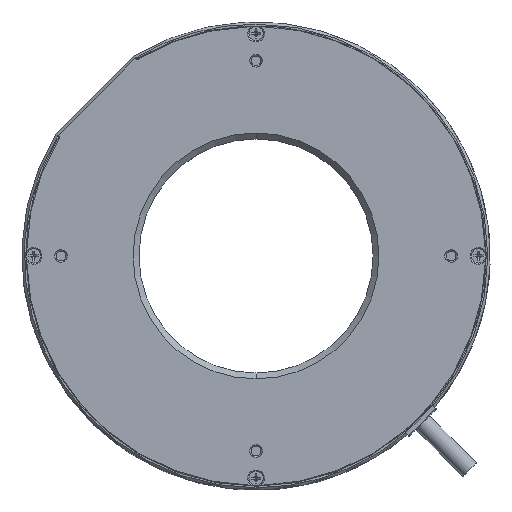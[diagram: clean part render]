
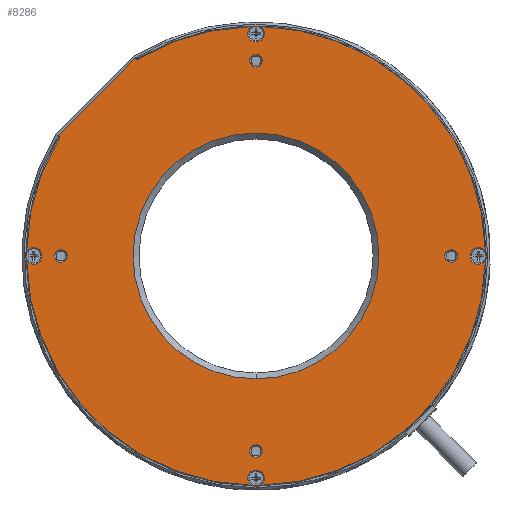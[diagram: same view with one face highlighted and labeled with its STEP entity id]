
A CAD part, top view. The second image highlights one B-rep face of the part: STEP entity #8286.
In plain terms, the highlighted planar face has unit normal (0, 0, 1).
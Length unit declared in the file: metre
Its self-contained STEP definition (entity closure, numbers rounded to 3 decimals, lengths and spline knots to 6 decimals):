
#1391=CARTESIAN_POINT('',(0.,0.,0.004));
#1392=DIRECTION('',(0.,0.,-1.));
#1393=DIRECTION('',(0.,1.,0.));
#1394=AXIS2_PLACEMENT_3D('',#1391,#1392,#1393);
#1396=CARTESIAN_POINT('',(0.,0.,0.004));
#1397=DIRECTION('',(0.,0.,-1.));
#1398=DIRECTION('',(0.,-1.,0.));
#1399=AXIS2_PLACEMENT_3D('',#1396,#1397,#1398);
#1401=CARTESIAN_POINT('',(0.,-0.05,0.004));
#1402=DIRECTION('',(0.,0.,-1.));
#1403=DIRECTION('',(0.,-1.,0.));
#1404=AXIS2_PLACEMENT_3D('',#1401,#1402,#1403);
#1406=CARTESIAN_POINT('',(0.,-0.05,0.004));
#1407=DIRECTION('',(0.,0.,-1.));
#1408=DIRECTION('',(0.,1.,0.));
#1409=AXIS2_PLACEMENT_3D('',#1406,#1407,#1408);
#1411=CARTESIAN_POINT('',(0.05,0.,0.004));
#1412=DIRECTION('',(0.,0.,-1.));
#1413=DIRECTION('',(1.,0.,0.));
#1414=AXIS2_PLACEMENT_3D('',#1411,#1412,#1413);
#1416=CARTESIAN_POINT('',(0.05,0.,0.004));
#1417=DIRECTION('',(0.,0.,-1.));
#1418=DIRECTION('',(-1.,0.,0.));
#1419=AXIS2_PLACEMENT_3D('',#1416,#1417,#1418);
#1421=CARTESIAN_POINT('',(0.,0.05,0.004));
#1422=DIRECTION('',(0.,0.,-1.));
#1423=DIRECTION('',(0.,1.,0.));
#1424=AXIS2_PLACEMENT_3D('',#1421,#1422,#1423);
#1426=CARTESIAN_POINT('',(0.,0.05,0.004));
#1427=DIRECTION('',(0.,0.,-1.));
#1428=DIRECTION('',(0.,-1.,0.));
#1429=AXIS2_PLACEMENT_3D('',#1426,#1427,#1428);
#1431=CARTESIAN_POINT('',(-0.05,0.,0.004));
#1432=DIRECTION('',(0.,0.,-1.));
#1433=DIRECTION('',(-1.,0.,0.));
#1434=AXIS2_PLACEMENT_3D('',#1431,#1432,#1433);
#1436=CARTESIAN_POINT('',(-0.05,0.,0.004));
#1437=DIRECTION('',(0.,0.,-1.));
#1438=DIRECTION('',(1.,0.,0.));
#1439=AXIS2_PLACEMENT_3D('',#1436,#1437,#1438);
#1441=CARTESIAN_POINT('',(0.,0.,0.004));
#1442=DIRECTION('',(0.,0.,1.));
#1443=DIRECTION('',(-0.859,0.513,0.));
#1444=AXIS2_PLACEMENT_3D('',#1441,#1442,#1443);
#1446=CARTESIAN_POINT('',(-0.050912,0.030406,0.004));
#1447=DIRECTION('',(0.,0.,-1.));
#1448=DIRECTION('',(0.707,0.707,0.));
#1449=AXIS2_PLACEMENT_3D('',#1446,#1447,#1448);
#1451=DIRECTION('',(0.707,-0.707,0.));
#1452=VECTOR('',#1451,0.000244);
#1453=CARTESIAN_POINT('',(-0.050731,0.030932,0.004));
#1454=LINE('',#1453,#1452);
#1455=DIRECTION('',(-0.707,-0.707,0.));
#1456=VECTOR('',#1455,0.028);
#1457=CARTESIAN_POINT('',(-0.030932,0.050731,0.004));
#1458=LINE('',#1457,#1456);
#1459=DIRECTION('',(-0.707,0.707,0.));
#1460=VECTOR('',#1459,0.000244);
#1461=CARTESIAN_POINT('',(-0.030759,0.050558,0.004));
#1462=LINE('',#1461,#1460);
#1463=CARTESIAN_POINT('',(-0.030406,0.050912,0.004));
#1464=DIRECTION('',(0.,0.,-1.));
#1465=DIRECTION('',(0.513,-0.859,0.));
#1466=AXIS2_PLACEMENT_3D('',#1463,#1464,#1465);
#1468=CARTESIAN_POINT('',(0.,0.,0.004));
#1469=DIRECTION('',(0.,0.,1.));
#1470=DIRECTION('',(-0.02,1.,0.));
#1471=AXIS2_PLACEMENT_3D('',#1468,#1469,#1470);
#1473=CARTESIAN_POINT('',(0.,0.,0.004));
#1474=DIRECTION('',(0.,0.,1.));
#1475=DIRECTION('',(1.,0.02,0.));
#1476=AXIS2_PLACEMENT_3D('',#1473,#1474,#1475);
#1478=CARTESIAN_POINT('',(0.,0.,0.004));
#1479=DIRECTION('',(0.,0.,1.));
#1480=DIRECTION('',(0.02,-1.,0.));
#1481=AXIS2_PLACEMENT_3D('',#1478,#1479,#1480);
#1483=CARTESIAN_POINT('',(0.,0.,0.004));
#1484=DIRECTION('',(0.,0.,1.));
#1485=DIRECTION('',(-1.,-0.02,0.));
#1486=AXIS2_PLACEMENT_3D('',#1483,#1484,#1485);
#2635=CARTESIAN_POINT('',(-0.057,0.,0.004));
#2636=DIRECTION('',(0.,0.,-1.));
#2637=DIRECTION('',(-0.832,0.555,0.));
#2638=AXIS2_PLACEMENT_3D('',#2635,#2636,#2637);
#3046=CARTESIAN_POINT('',(0.,-0.057,0.004));
#3047=DIRECTION('',(0.,0.,-1.));
#3048=DIRECTION('',(-0.555,-0.832,0.));
#3049=AXIS2_PLACEMENT_3D('',#3046,#3047,#3048);
#3472=CARTESIAN_POINT('',(0.057,0.,0.004));
#3473=DIRECTION('',(0.,0.,-1.));
#3474=DIRECTION('',(0.832,-0.555,0.));
#3475=AXIS2_PLACEMENT_3D('',#3472,#3473,#3474);
#4416=CARTESIAN_POINT('',(0.,0.057,0.004));
#4417=DIRECTION('',(0.,0.,-1.));
#4418=DIRECTION('',(0.555,0.832,0.));
#4419=AXIS2_PLACEMENT_3D('',#4416,#4417,#4418);
#4991=CARTESIAN_POINT('',(-0.050482,0.030149,0.004));
#4992=CARTESIAN_POINT('',(-0.058788,0.001194,0.004));
#4993=VERTEX_POINT('',#4991);
#4994=VERTEX_POINT('',#4992);
#4995=CARTESIAN_POINT('',(-0.050558,0.030759,0.004));
#4996=VERTEX_POINT('',#4995);
#4997=CARTESIAN_POINT('',(-0.050731,0.030932,0.004));
#4998=VERTEX_POINT('',#4997);
#4999=CARTESIAN_POINT('',(-0.030932,0.050731,0.004));
#5000=VERTEX_POINT('',#4999);
#5001=CARTESIAN_POINT('',(-0.030759,0.050558,0.004));
#5002=VERTEX_POINT('',#5001);
#5003=CARTESIAN_POINT('',(-0.030149,0.050482,0.004));
#5004=VERTEX_POINT('',#5003);
#5005=CARTESIAN_POINT('',(-0.001194,0.058788,0.004));
#5006=VERTEX_POINT('',#5005);
#5007=CARTESIAN_POINT('',(0.058788,0.001194,0.004));
#5008=CARTESIAN_POINT('',(0.001194,0.058788,0.004));
#5009=VERTEX_POINT('',#5007);
#5010=VERTEX_POINT('',#5008);
#5011=CARTESIAN_POINT('',(0.001194,-0.058788,0.004));
#5012=CARTESIAN_POINT('',(0.058788,-0.001194,0.004));
#5013=VERTEX_POINT('',#5011);
#5014=VERTEX_POINT('',#5012);
#5015=CARTESIAN_POINT('',(-0.058788,-0.001194,0.004));
#5016=CARTESIAN_POINT('',(-0.001194,-0.058788,0.004));
#5017=VERTEX_POINT('',#5015);
#5018=VERTEX_POINT('',#5016);
#5019=CARTESIAN_POINT('',(-0.0484,0.,0.004));
#5020=CARTESIAN_POINT('',(-0.0516,0.,0.004));
#5021=VERTEX_POINT('',#5019);
#5022=VERTEX_POINT('',#5020);
#5023=CARTESIAN_POINT('',(0.,0.0484,0.004));
#5024=CARTESIAN_POINT('',(0.,0.0516,0.004));
#5025=VERTEX_POINT('',#5023);
#5026=VERTEX_POINT('',#5024);
#5027=CARTESIAN_POINT('',(0.0484,0.,0.004));
#5028=CARTESIAN_POINT('',(0.0516,0.,0.004));
#5029=VERTEX_POINT('',#5027);
#5030=VERTEX_POINT('',#5028);
#5031=CARTESIAN_POINT('',(0.,-0.0484,0.004));
#5032=CARTESIAN_POINT('',(0.,-0.0516,0.004));
#5033=VERTEX_POINT('',#5031);
#5034=VERTEX_POINT('',#5032);
#5035=CARTESIAN_POINT('',(0.,-0.0315,0.004));
#5036=CARTESIAN_POINT('',(0.,0.0315,0.004));
#5037=VERTEX_POINT('',#5035);
#5038=VERTEX_POINT('',#5036);
#8223=CARTESIAN_POINT('',(0.,0.,0.004));
#8224=DIRECTION('',(0.,0.,-1.));
#8225=DIRECTION('',(0.,-1.,0.));
#8226=AXIS2_PLACEMENT_3D('',#8223,#8224,#8225);
#8227=PLANE('',#8226);
#8229=ORIENTED_EDGE('',*,*,#8228,.F.);
#8231=ORIENTED_EDGE('',*,*,#8230,.F.);
#8233=ORIENTED_EDGE('',*,*,#8232,.F.);
#8235=ORIENTED_EDGE('',*,*,#8234,.F.);
#8237=ORIENTED_EDGE('',*,*,#8236,.F.);
#8239=ORIENTED_EDGE('',*,*,#8238,.F.);
#8241=ORIENTED_EDGE('',*,*,#8240,.F.);
#8243=ORIENTED_EDGE('',*,*,#8242,.F.);
#8245=ORIENTED_EDGE('',*,*,#8244,.F.);
#8247=ORIENTED_EDGE('',*,*,#8246,.F.);
#8249=ORIENTED_EDGE('',*,*,#8248,.F.);
#8251=ORIENTED_EDGE('',*,*,#8250,.F.);
#8253=ORIENTED_EDGE('',*,*,#8252,.F.);
#8255=ORIENTED_EDGE('',*,*,#8254,.F.);
#8256=EDGE_LOOP('',(#8229,#8231,#8233,#8235,#8237,#8239,#8241,#8243,#8245,#8247,
#8249,#8251,#8253,#8255));
#8257=FACE_OUTER_BOUND('',#8256,.F.);
#8259=ORIENTED_EDGE('',*,*,#8258,.F.);
#8261=ORIENTED_EDGE('',*,*,#8260,.F.);
#8262=EDGE_LOOP('',(#8259,#8261));
#8263=FACE_BOUND('',#8262,.F.);
#8265=ORIENTED_EDGE('',*,*,#8264,.F.);
#8267=ORIENTED_EDGE('',*,*,#8266,.F.);
#8268=EDGE_LOOP('',(#8265,#8267));
#8269=FACE_BOUND('',#8268,.F.);
#8271=ORIENTED_EDGE('',*,*,#8270,.F.);
#8273=ORIENTED_EDGE('',*,*,#8272,.F.);
#8274=EDGE_LOOP('',(#8271,#8273));
#8275=FACE_BOUND('',#8274,.F.);
#8277=ORIENTED_EDGE('',*,*,#8276,.F.);
#8279=ORIENTED_EDGE('',*,*,#8278,.F.);
#8280=EDGE_LOOP('',(#8277,#8279));
#8281=FACE_BOUND('',#8280,.F.);
#8282=ORIENTED_EDGE('',*,*,#8216,.F.);
#8283=ORIENTED_EDGE('',*,*,#8202,.F.);
#8284=EDGE_LOOP('',(#8282,#8283));
#8285=FACE_BOUND('',#8284,.F.);
#8286=ADVANCED_FACE('',(#8257,#8263,#8269,#8275,#8281,#8285),#8227,.F.);
#1395=CIRCLE('',#1394,0.0315);
#1400=CIRCLE('',#1399,0.0315);
#1405=CIRCLE('',#1404,0.0016);
#1410=CIRCLE('',#1409,0.0016);
#1415=CIRCLE('',#1414,0.0016);
#1420=CIRCLE('',#1419,0.0016);
#1425=CIRCLE('',#1424,0.0016);
#1430=CIRCLE('',#1429,0.0016);
#1435=CIRCLE('',#1434,0.0016);
#1440=CIRCLE('',#1439,0.0016);
#1445=CIRCLE('',#1444,0.0588);
#1450=CIRCLE('',#1449,0.0005);
#1467=CIRCLE('',#1466,0.0005);
#1472=CIRCLE('',#1471,0.0588);
#1477=CIRCLE('',#1476,0.0588);
#1482=CIRCLE('',#1481,0.0588);
#1487=CIRCLE('',#1486,0.0588);
#2639=CIRCLE('',#2638,0.00215);
#3050=CIRCLE('',#3049,0.00215);
#3476=CIRCLE('',#3475,0.00215);
#4420=CIRCLE('',#4419,0.00215);
#8202=EDGE_CURVE('',#5037,#5038,#1400,.T.);
#8216=EDGE_CURVE('',#5038,#5037,#1395,.T.);
#8228=EDGE_CURVE('',#4994,#5017,#2639,.T.);
#8230=EDGE_CURVE('',#4993,#4994,#1445,.T.);
#8232=EDGE_CURVE('',#4996,#4993,#1450,.T.);
#8234=EDGE_CURVE('',#4998,#4996,#1454,.T.);
#8236=EDGE_CURVE('',#5000,#4998,#1458,.T.);
#8238=EDGE_CURVE('',#5002,#5000,#1462,.T.);
#8240=EDGE_CURVE('',#5004,#5002,#1467,.T.);
#8242=EDGE_CURVE('',#5006,#5004,#1472,.T.);
#8244=EDGE_CURVE('',#5010,#5006,#4420,.T.);
#8246=EDGE_CURVE('',#5009,#5010,#1477,.T.);
#8248=EDGE_CURVE('',#5014,#5009,#3476,.T.);
#8250=EDGE_CURVE('',#5013,#5014,#1482,.T.);
#8252=EDGE_CURVE('',#5018,#5013,#3050,.T.);
#8254=EDGE_CURVE('',#5017,#5018,#1487,.T.);
#8258=EDGE_CURVE('',#5034,#5033,#1405,.T.);
#8260=EDGE_CURVE('',#5033,#5034,#1410,.T.);
#8264=EDGE_CURVE('',#5030,#5029,#1415,.T.);
#8266=EDGE_CURVE('',#5029,#5030,#1420,.T.);
#8270=EDGE_CURVE('',#5026,#5025,#1425,.T.);
#8272=EDGE_CURVE('',#5025,#5026,#1430,.T.);
#8276=EDGE_CURVE('',#5022,#5021,#1435,.T.);
#8278=EDGE_CURVE('',#5021,#5022,#1440,.T.);
